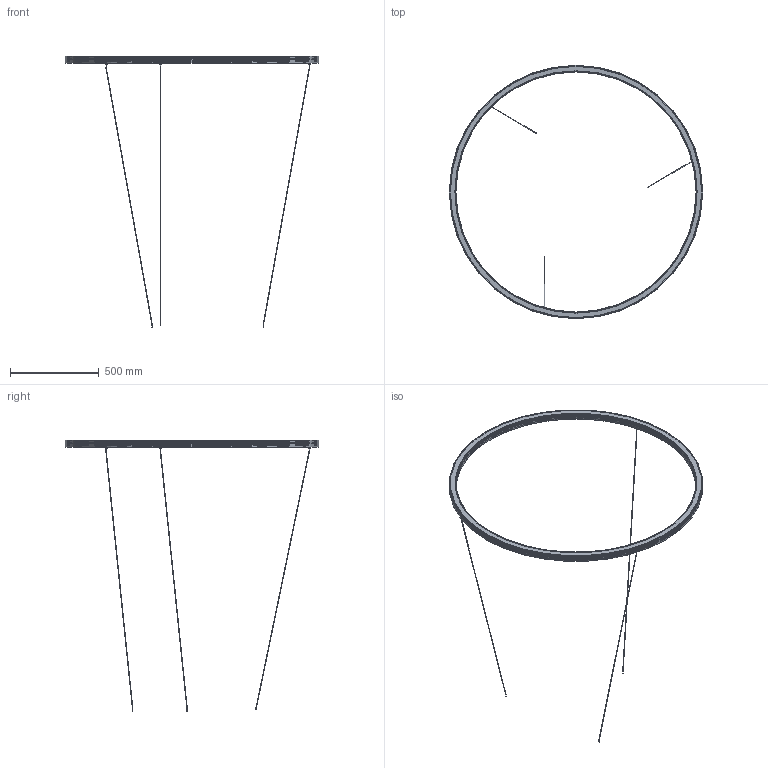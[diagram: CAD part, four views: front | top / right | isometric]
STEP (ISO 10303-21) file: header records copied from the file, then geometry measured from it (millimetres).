
FILE_DESCRIPTION(/* description */ ('Unknown'),/* implementation_level */ '2;1');
FILE_NAME(/* name */ 'TOUR_PD 56.3',/* time_stamp */ '2023-01-24T05:12:21-05:00',/* author */ ('Unknown'),/* organization */ ('Unknown'),/* preprocessor_version */ 'ST-DEVELOPER v18.1',/* originating_system */ 'Solid Edge',/* authorisation */ 'Unknown');
FILE_SCHEMA (('AUTOMOTIVE_DESIGN {1 0 10303 214 3 1 1}'));
Length unit declared in the file: millimetre
Products named in the file (1): TOUR_PD 56.3
Bounding box: 1430.4 x 1430.4 x 1531.5 mm (x, y, z)
Volume: 2104713 mm3; surface area: 1762567.9 mm2
Topology: 4 solids, 6 shells, 258 faces, 565 edges, 342 vertices
Faces by surface type: cylinder 104, cone 61, plane 47, torus 46
Full cylindrical faces by diameter (mm): 2.8 x9, 3 x3, 4.134 x3, 12.4 x3, 1356 x2, 1360 x5, 1360.5 x1, 1362.9 x1, 1381.4 x1, 1390.006 x4, 1390.508 x5, 1395.505 x4, 1396.007 x4, 1396.057 x1, 1404.6 x1, 1409.3 x1, 1416.3 x1, 1421 x1, 1422.2 x3, 1423.1 x1, 1425.5 x1, 1426 x5, 1430 x2
Entity records: 7946 total; most frequent: CARTESIAN_POINT 1168, DIRECTION 1130, ORIENTED_EDGE 744, AXIS2_PLACEMENT_3D 547, FACE_BOUND 465, EDGE_LOOP 462, EDGE_CURVE 372, VERTEX_POINT 315
